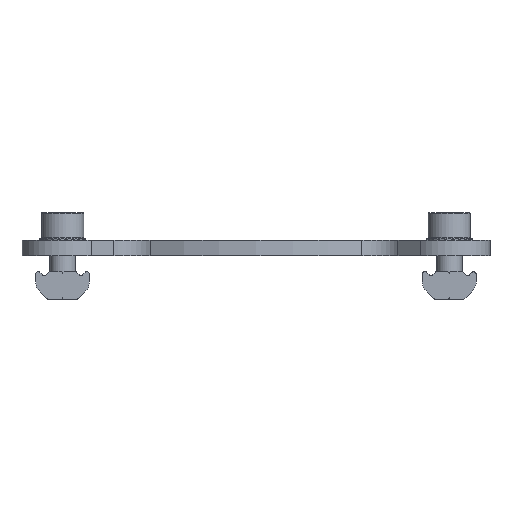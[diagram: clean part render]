
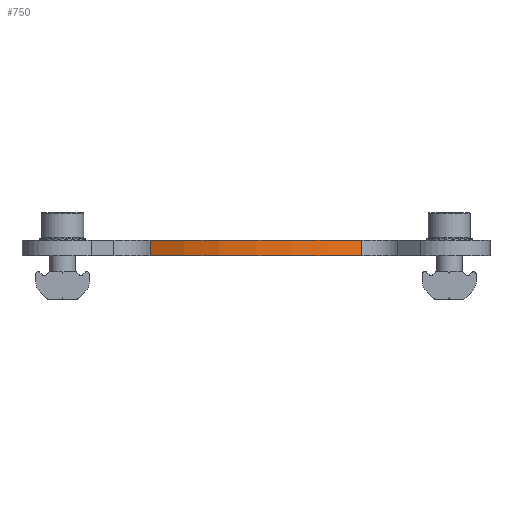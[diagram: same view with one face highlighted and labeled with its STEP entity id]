
A CAD part, front view. The second image highlights one B-rep face of the part: STEP entity #750.
In plain terms, the highlighted cylindrical face has radius 43.5 mm (diameter 87 mm), a partial arc.
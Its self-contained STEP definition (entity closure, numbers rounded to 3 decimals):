
#198 = DIRECTION ( 'NONE',  ( 0., 0., 1. ) ) ;
#621 = DIRECTION ( 'NONE',  ( 0., 0., 1. ) ) ;
#750 = ADVANCED_FACE ( 'NONE', ( #7566 ), #1051, .T. ) ;
#1051 = CYLINDRICAL_SURFACE ( 'NONE', #2745, 43.5 ) ;
#1124 = CIRCLE ( 'NONE', #1138, 43.5 ) ;
#1138 = AXIS2_PLACEMENT_3D ( 'NONE', #6798, #2090, #7593 ) ;
#1430 = CARTESIAN_POINT ( 'NONE',  ( -37.122, -38.955, 29.578 ) ) ;
#2024 = CARTESIAN_POINT ( 'NONE',  ( -78.73, -38.955, 32.578 ) ) ;
#2090 = DIRECTION ( 'NONE',  ( 0., 0., 1. ) ) ;
#2310 = CIRCLE ( 'NONE', #9955, 43.5 ) ;
#2513 = VERTEX_POINT ( 'NONE', #7331 ) ;
#2569 = DIRECTION ( 'NONE',  ( 1., 0., 0. ) ) ;
#2745 = AXIS2_PLACEMENT_3D ( 'NONE', #7268, #198, #2569 ) ;
#2925 = VECTOR ( 'NONE', #621, 1000. ) ;
#3130 = EDGE_CURVE ( 'NONE', #8396, #2513, #3170, .T. ) ;
#3170 = LINE ( 'NONE', #1430, #2925 ) ;
#3306 = CARTESIAN_POINT ( 'NONE',  ( -57.926, -0.752, 29.578 ) ) ;
#3987 = LINE ( 'NONE', #6347, #7927 ) ;
#4093 = DIRECTION ( 'NONE',  ( 1., 0., 0. ) ) ;
#4359 = EDGE_LOOP ( 'NONE', ( #7197, #7440, #7789, #7994 ) ) ;
#5247 = EDGE_CURVE ( 'NONE', #9063, #7055, #3987, .T. ) ;
#6347 = CARTESIAN_POINT ( 'NONE',  ( -78.73, -38.955, 29.578 ) ) ;
#6798 = CARTESIAN_POINT ( 'NONE',  ( -57.926, -0.752, 32.578 ) ) ;
#7055 = VERTEX_POINT ( 'NONE', #2024 ) ;
#7085 = CARTESIAN_POINT ( 'NONE',  ( -78.73, -38.955, 29.578 ) ) ;
#7100 = EDGE_CURVE ( 'NONE', #7055, #2513, #1124, .T. ) ;
#7137 = DIRECTION ( 'NONE',  ( 0., 0., 1. ) ) ;
#7197 = ORIENTED_EDGE ( 'NONE', *, *, #7100, .F. ) ;
#7268 = CARTESIAN_POINT ( 'NONE',  ( -57.926, -0.752, 29.578 ) ) ;
#7331 = CARTESIAN_POINT ( 'NONE',  ( -37.122, -38.955, 32.578 ) ) ;
#7440 = ORIENTED_EDGE ( 'NONE', *, *, #5247, .F. ) ;
#7566 = FACE_OUTER_BOUND ( 'NONE', #4359, .T. ) ;
#7593 = DIRECTION ( 'NONE',  ( 1., 0., 0. ) ) ;
#7789 = ORIENTED_EDGE ( 'NONE', *, *, #8549, .T. ) ;
#7927 = VECTOR ( 'NONE', #7137, 1000. ) ;
#7994 = ORIENTED_EDGE ( 'NONE', *, *, #3130, .T. ) ;
#8396 = VERTEX_POINT ( 'NONE', #8574 ) ;
#8549 = EDGE_CURVE ( 'NONE', #9063, #8396, #2310, .T. ) ;
#8574 = CARTESIAN_POINT ( 'NONE',  ( -37.122, -38.955, 29.578 ) ) ;
#8813 = DIRECTION ( 'NONE',  ( 0., 0., 1. ) ) ;
#9063 = VERTEX_POINT ( 'NONE', #7085 ) ;
#9955 = AXIS2_PLACEMENT_3D ( 'NONE', #3306, #8813, #4093 ) ;
